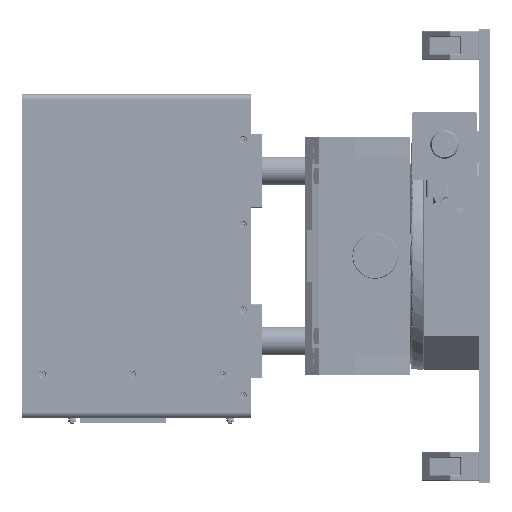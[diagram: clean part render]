
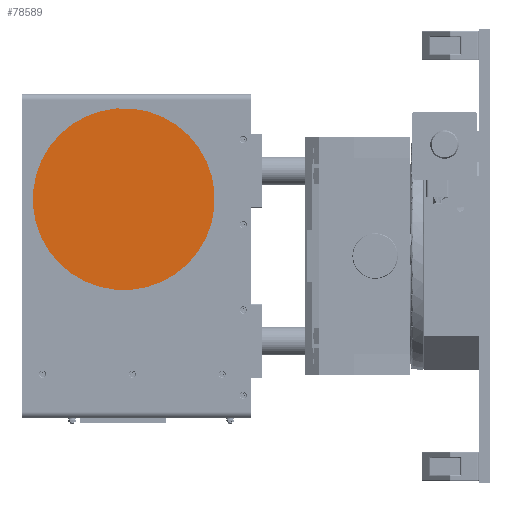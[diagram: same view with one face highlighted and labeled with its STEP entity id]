
A CAD part, left-side view. The second image highlights one B-rep face of the part: STEP entity #78589.
In plain terms, the highlighted planar face has unit normal (-1, 0, 0) as drawn and (0, 1, 0) by its records, which use the part's own axes.
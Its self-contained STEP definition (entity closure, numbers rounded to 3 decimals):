
#615 = FACE_OUTER_BOUND ( 'NONE', #79229, .T. ) ;
#6738 = VERTEX_POINT ( 'NONE', #80648 ) ;
#7316 = AXIS2_PLACEMENT_3D ( 'NONE', #42721, #80529, #31554 ) ;
#27972 = CARTESIAN_POINT ( 'NONE',  ( 0., 5., -80. ) ) ;
#31554 = DIRECTION ( 'NONE',  ( 0., 0., 1. ) ) ;
#31604 = DIRECTION ( 'NONE',  ( 0., 0., 1. ) ) ;
#32616 = DIRECTION ( 'NONE',  ( 0., 1., 0. ) ) ;
#42721 = CARTESIAN_POINT ( 'NONE',  ( 0., 5., 0. ) ) ;
#42839 = VERTEX_POINT ( 'NONE', #27972 ) ;
#59622 = EDGE_CURVE ( 'NONE', #6738, #42839, #120202, .T. ) ;
#62543 = AXIS2_PLACEMENT_3D ( 'NONE', #97683, #32616, #110092 ) ;
#63309 = AXIS2_PLACEMENT_3D ( 'NONE', #78732, #106013, #31604 ) ;
#78589 = ADVANCED_FACE ( 'NONE', ( #615 ), #96677, .T. ) ;
#78732 = CARTESIAN_POINT ( 'NONE',  ( 0., 5., 0. ) ) ;
#79229 = EDGE_LOOP ( 'NONE', ( #82999, #103063 ) ) ;
#80529 = DIRECTION ( 'NONE',  ( 0., 1., 0. ) ) ;
#80648 = CARTESIAN_POINT ( 'NONE',  ( 0., 5., 80. ) ) ;
#82999 = ORIENTED_EDGE ( 'NONE', *, *, #103261, .T. ) ;
#86317 = CIRCLE ( 'NONE', #62543, 80. ) ;
#96677 = PLANE ( 'NONE',  #63309 ) ;
#97683 = CARTESIAN_POINT ( 'NONE',  ( 0., 5., 0. ) ) ;
#103063 = ORIENTED_EDGE ( 'NONE', *, *, #59622, .T. ) ;
#103261 = EDGE_CURVE ( 'NONE', #42839, #6738, #86317, .T. ) ;
#106013 = DIRECTION ( 'NONE',  ( 0., 1., 0. ) ) ;
#110092 = DIRECTION ( 'NONE',  ( 0., 0., 1. ) ) ;
#120202 = CIRCLE ( 'NONE', #7316, 80. ) ;
